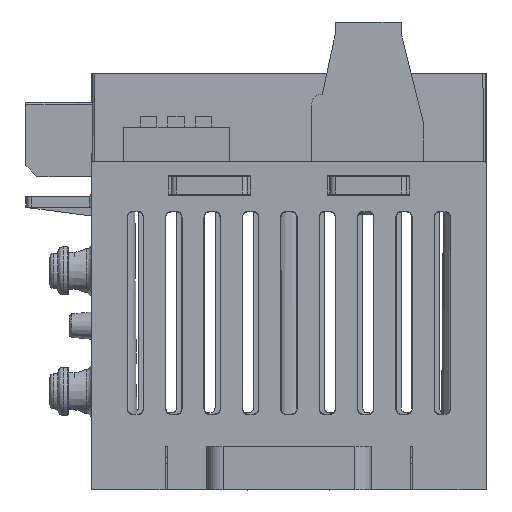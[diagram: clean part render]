
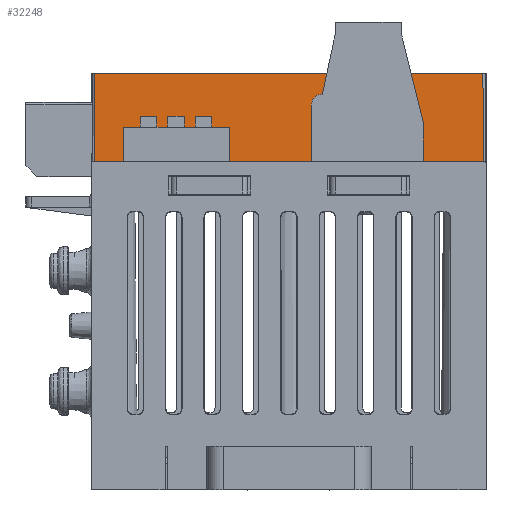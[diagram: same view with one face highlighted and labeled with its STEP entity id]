
A CAD part, front view. The second image highlights one B-rep face of the part: STEP entity #32248.
In plain terms, the highlighted planar face has unit normal (0, -1, 0.009).
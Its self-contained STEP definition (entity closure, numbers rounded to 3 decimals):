
#984 = DIRECTION ( 'NONE',  ( -0.009, -0.009, -1. ) ) ;
#1565 = DIRECTION ( 'NONE',  ( 1., 0., 0. ) ) ;
#2499 = VERTEX_POINT ( 'NONE', #33109 ) ;
#2833 = AXIS2_PLACEMENT_3D ( 'NONE', #46113, #6592, #9802 ) ;
#3137 = DIRECTION ( 'NONE',  ( 1., 0., 0. ) ) ;
#3627 = EDGE_LOOP ( 'NONE', ( #46476, #40145, #52770, #35229, #33954, #42109 ) ) ;
#4471 = LINE ( 'NONE', #37827, #4813 ) ;
#4813 = VECTOR ( 'NONE', #984, 1000. ) ;
#6592 = DIRECTION ( 'NONE',  ( 0., -1., 0.009 ) ) ;
#9802 = DIRECTION ( 'NONE',  ( 0., -0.009, -1. ) ) ;
#10531 = DIRECTION ( 'NONE',  ( -1., 0., 0. ) ) ;
#11540 = LINE ( 'NONE', #47317, #23290 ) ;
#13080 = VECTOR ( 'NONE', #51624, 1000. ) ;
#14047 = VERTEX_POINT ( 'NONE', #14817 ) ;
#14274 = CARTESIAN_POINT ( 'NONE',  ( 17.9, 41.787, 9.4 ) ) ;
#14817 = CARTESIAN_POINT ( 'NONE',  ( -17.75, 41.705, 0. ) ) ;
#19071 = LINE ( 'NONE', #35886, #13080 ) ;
#19560 = CARTESIAN_POINT ( 'NONE',  ( 17.9, 41.705, 0. ) ) ;
#22576 = LINE ( 'NONE', #14274, #36616 ) ;
#23290 = VECTOR ( 'NONE', #44112, 1000. ) ;
#24282 = CARTESIAN_POINT ( 'NONE',  ( -17.782, 41.705, 0. ) ) ;
#27429 = LINE ( 'NONE', #51965, #43947 ) ;
#29651 = EDGE_CURVE ( 'NONE', #14047, #46605, #11540, .T. ) ;
#32248 = ADVANCED_FACE ( 'NONE', ( #43162 ), #38902, .T. ) ;
#32844 = EDGE_CURVE ( 'NONE', #34950, #52226, #19071, .T. ) ;
#33109 = CARTESIAN_POINT ( 'NONE',  ( -17.7, 41.787, 9.4 ) ) ;
#33550 = CARTESIAN_POINT ( 'NONE',  ( 17.7, 41.787, 9.4 ) ) ;
#33954 = ORIENTED_EDGE ( 'NONE', *, *, #49647, .T. ) ;
#34659 = EDGE_CURVE ( 'NONE', #46605, #34950, #27429, .T. ) ;
#34950 = VERTEX_POINT ( 'NONE', #40642 ) ;
#35229 = ORIENTED_EDGE ( 'NONE', *, *, #32844, .T. ) ;
#35886 = CARTESIAN_POINT ( 'NONE',  ( 17.782, 41.705, 0. ) ) ;
#35891 = EDGE_CURVE ( 'NONE', #2499, #49101, #4471, .T. ) ;
#36536 = EDGE_CURVE ( 'NONE', #49101, #14047, #47854, .T. ) ;
#36616 = VECTOR ( 'NONE', #10531, 1000. ) ;
#36926 = CARTESIAN_POINT ( 'NONE',  ( 17.75, 41.705, 0. ) ) ;
#37827 = CARTESIAN_POINT ( 'NONE',  ( -17.7, 41.787, 9.4 ) ) ;
#38902 = PLANE ( 'NONE',  #2833 ) ;
#40145 = ORIENTED_EDGE ( 'NONE', *, *, #29651, .T. ) ;
#40642 = CARTESIAN_POINT ( 'NONE',  ( 17.782, 41.705, 0. ) ) ;
#42109 = ORIENTED_EDGE ( 'NONE', *, *, #35891, .T. ) ;
#43162 = FACE_OUTER_BOUND ( 'NONE', #3627, .T. ) ;
#43947 = VECTOR ( 'NONE', #3137, 1000. ) ;
#44112 = DIRECTION ( 'NONE',  ( 1., 0., 0. ) ) ;
#46113 = CARTESIAN_POINT ( 'NONE',  ( 17.9, 41.787, 9.4 ) ) ;
#46476 = ORIENTED_EDGE ( 'NONE', *, *, #36536, .T. ) ;
#46595 = VECTOR ( 'NONE', #1565, 1000. ) ;
#46605 = VERTEX_POINT ( 'NONE', #36926 ) ;
#47317 = CARTESIAN_POINT ( 'NONE',  ( 17.9, 41.705, 0. ) ) ;
#47854 = LINE ( 'NONE', #19560, #46595 ) ;
#49101 = VERTEX_POINT ( 'NONE', #24282 ) ;
#49647 = EDGE_CURVE ( 'NONE', #52226, #2499, #22576, .T. ) ;
#51624 = DIRECTION ( 'NONE',  ( -0.009, 0.009, 1. ) ) ;
#51965 = CARTESIAN_POINT ( 'NONE',  ( 17.9, 41.705, 0. ) ) ;
#52226 = VERTEX_POINT ( 'NONE', #33550 ) ;
#52770 = ORIENTED_EDGE ( 'NONE', *, *, #34659, .T. ) ;
